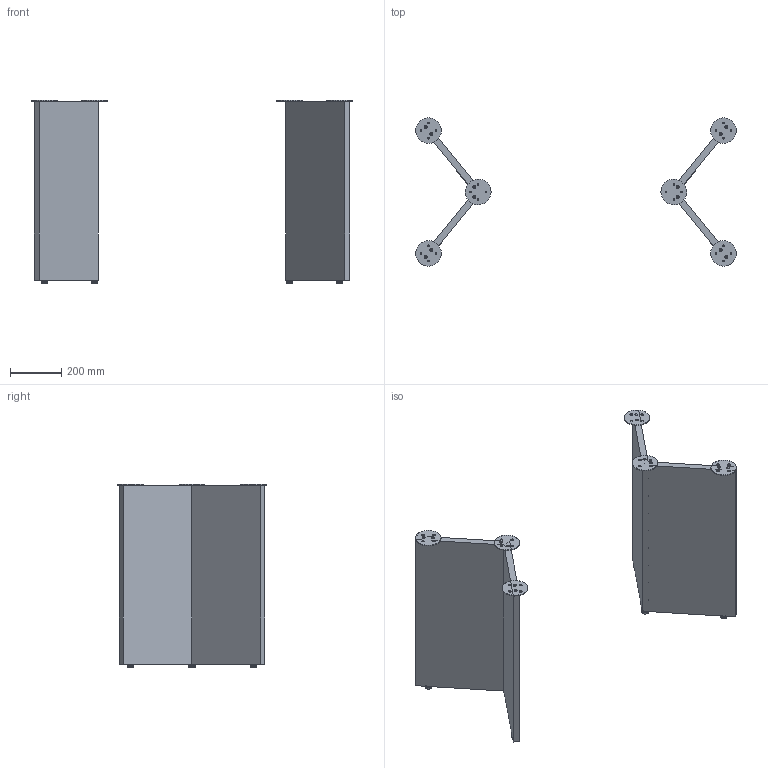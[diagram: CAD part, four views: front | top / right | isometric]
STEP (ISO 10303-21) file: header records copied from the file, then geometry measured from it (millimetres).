
FILE_DESCRIPTION(/* description */ (''),/* implementation_level */ '2;1');
FILE_NAME(/* name */ 'MEZJHP~1',/* time_stamp */ '2019-03-20T11:26:19+01:00',/* author */ (''),/* organization */ (''),/* preprocessor_version */ 'ST-DEVELOPER v16.5',/* originating_system */ '',/* authorisation */ '');
FILE_SCHEMA (('AUTOMOTIVE_DESIGN'));
Length unit declared in the file: millimetre
Products named in the file (1): Document
Bounding box: 1254.07 x 580.13 x 716.5 mm (x, y, z)
Volume: 25246464.8 mm3; surface area: 2373242.5 mm2
Topology: 44 solids, 44 shells, 352 faces, 724 edges, 448 vertices
Faces by surface type: bspline 248, plane 104
Entity records: 10091 total; most frequent: CARTESIAN_POINT 5651, ORIENTED_EDGE 1392, EDGE_CURVE 696, VERTEX_POINT 444, EDGE_LOOP 436, ADVANCED_FACE 352, FACE_OUTER_BOUND 352, B_SPLINE_CURVE_WITH_KNOTS 208
